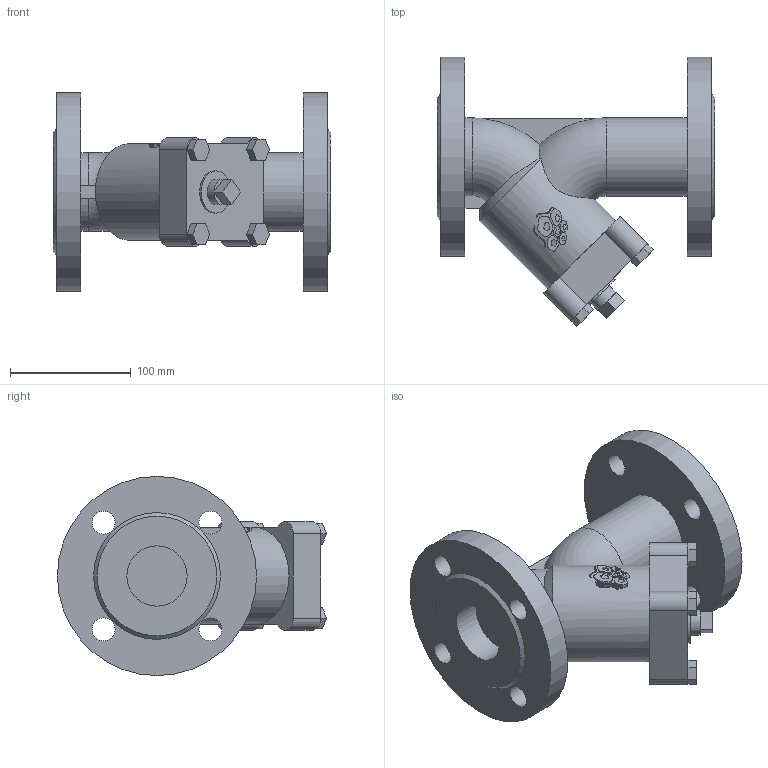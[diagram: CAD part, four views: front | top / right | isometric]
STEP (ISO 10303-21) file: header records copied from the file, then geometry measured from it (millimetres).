
FILE_DESCRIPTION(('STEP AP203'), '1');
FILE_NAME('3D_600_601-050-16_1', '', ('UNSPECIFIED'), ('UNSPECIFIED'), 'C3D Converter', 'C3D Toolkit', '');
FILE_SCHEMA(('CONFIG_CONTROL_DESIGN'));
Length unit declared in the file: millimetre
Bounding box: 230 x 223 x 165 mm (x, y, z)
Volume: 1962302.5 mm3; surface area: 189167.9 mm2
Topology: 1 solids, 1 shells, 921 faces, 2667 edges, 1770 vertices
Faces by surface type: plane 889, cylinder 27, cone 3, torus 2
Full cylindrical faces by diameter (mm): 19 x8, 21.213 x1, 35 x1, 50 x2, 65 x1, 80 x1, 165 x2
Entity records: 38292 total; most frequent: CARTESIAN_POINT 8858, ORIENTED_EDGE 5296, DIRECTION 3766, EDGE_CURVE 2648, VERTEX_POINT 1770, LINE 1754, VECTOR 1754, AXIS2_PLACEMENT_3D 1006
